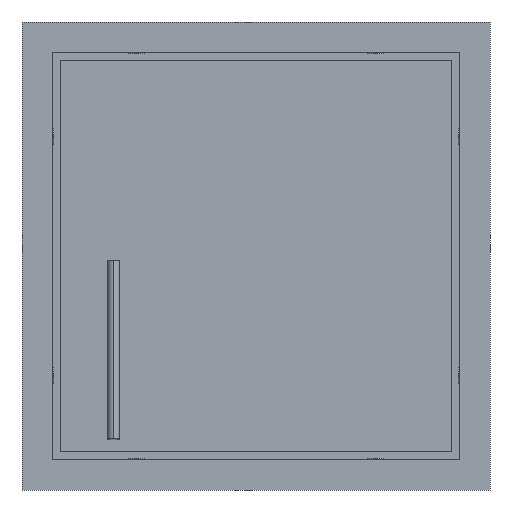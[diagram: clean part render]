
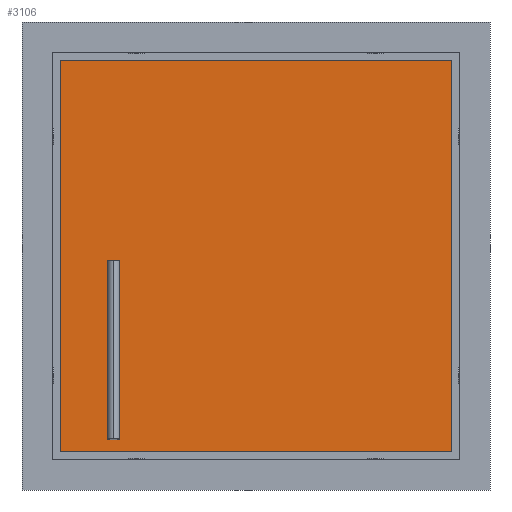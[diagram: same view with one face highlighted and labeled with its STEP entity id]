
A CAD part, front view. The second image highlights one B-rep face of the part: STEP entity #3106.
In plain terms, the highlighted planar face has unit normal (0, -1, 0).
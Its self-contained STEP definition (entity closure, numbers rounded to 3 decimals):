
#2718=DIRECTION('',(0.,0.,-1.));
#2719=VECTOR('',#2718,848.);
#2720=CARTESIAN_POINT('',(424.,79.,415.));
#2721=LINE('',#2720,#2719);
#2726=DIRECTION('',(-1.,0.,0.));
#2727=VECTOR('',#2726,848.);
#2728=CARTESIAN_POINT('',(424.,79.,-433.));
#2729=LINE('',#2728,#2727);
#2734=DIRECTION('',(0.,0.,1.));
#2735=VECTOR('',#2734,848.);
#2736=CARTESIAN_POINT('',(-424.,79.,-433.));
#2737=LINE('',#2736,#2735);
#2742=DIRECTION('',(1.,0.,0.));
#2743=VECTOR('',#2742,848.);
#2744=CARTESIAN_POINT('',(-424.,79.,415.));
#2745=LINE('',#2744,#2743);
#2891=CARTESIAN_POINT('',(424.,79.,415.));
#2892=CARTESIAN_POINT('',(424.,79.,-433.));
#2893=VERTEX_POINT('',#2891);
#2894=VERTEX_POINT('',#2892);
#2895=CARTESIAN_POINT('',(-424.,79.,-433.));
#2896=VERTEX_POINT('',#2895);
#2897=CARTESIAN_POINT('',(-424.,79.,415.));
#2898=VERTEX_POINT('',#2897);
#3092=CARTESIAN_POINT('',(0.,79.,0.));
#3093=DIRECTION('',(0.,1.,0.));
#3094=DIRECTION('',(0.,0.,-1.));
#3095=AXIS2_PLACEMENT_3D('',#3092,#3093,#3094);
#3096=PLANE('',#3095);
#3097=ORIENTED_EDGE('',*,*,#3082,.T.);
#3099=ORIENTED_EDGE('',*,*,#3098,.T.);
#3101=ORIENTED_EDGE('',*,*,#3100,.T.);
#3103=ORIENTED_EDGE('',*,*,#3102,.T.);
#3104=EDGE_LOOP('',(#3097,#3099,#3101,#3103));
#3105=FACE_OUTER_BOUND('',#3104,.F.);
#3106=ADVANCED_FACE('',(#3105),#3096,.F.);
#3082=EDGE_CURVE('',#2893,#2894,#2721,.T.);
#3098=EDGE_CURVE('',#2894,#2896,#2729,.T.);
#3100=EDGE_CURVE('',#2896,#2898,#2737,.T.);
#3102=EDGE_CURVE('',#2898,#2893,#2745,.T.);
